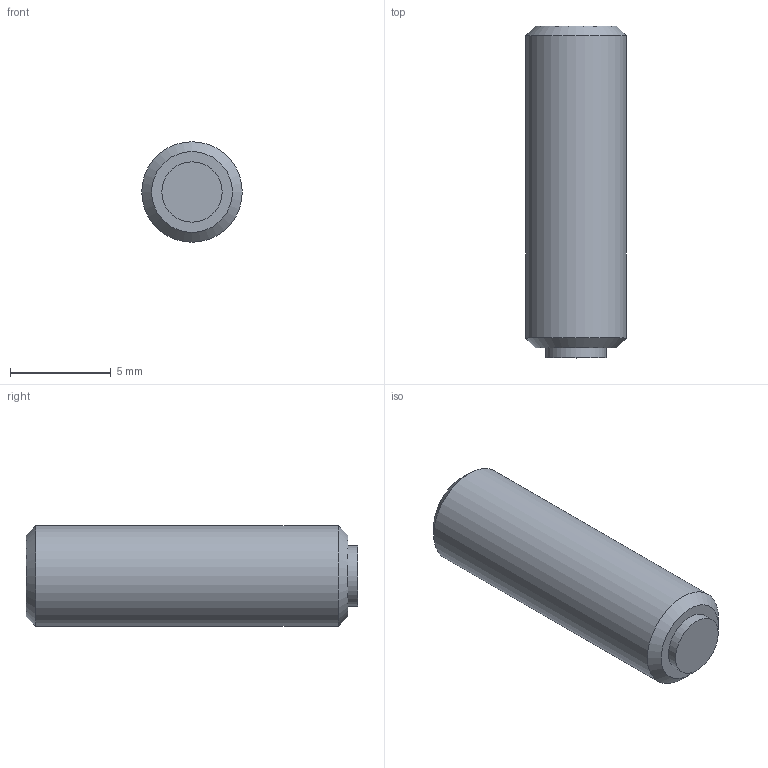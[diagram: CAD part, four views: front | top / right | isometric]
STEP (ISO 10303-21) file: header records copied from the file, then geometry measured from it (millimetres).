
FILE_DESCRIPTION( ( 'STEP AP203' ), '1' );
FILE_NAME( 'C:/Temp/Ganter_Step_05_03_2020/data/3_2/gn913_3/Grub screw GN 913.3-M5-16-MS.stp', '2020-03-13T05:35:47', ( 'License CC BY-ND 4.0' ), ( 'CADENAS' ), ' ', 'PARTsolutions', ' ' );
FILE_SCHEMA( ( 'CONFIG_CONTROL_DESIGN' ) );
Length unit declared in the file: millimetre
Products named in the file (1): _Grub screw GN 913.3-M5-16-MS
Bounding box: 5 x 16.5 x 5 mm (x, y, z)
Volume: 297.9 mm3; surface area: 311.6 mm2
Topology: 1 solids, 1 shells, 14 faces, 28 edges, 18 vertices
Faces by surface type: plane 10, cylinder 2, cone 2
Full cylindrical faces by diameter (mm): 3 x1, 5 x1
Entity records: 386 total; most frequent: DIRECTION 60, CARTESIAN_POINT 57, ORIENTED_EDGE 48, EDGE_CURVE 24, AXIS2_PLACEMENT_3D 21, EDGE_LOOP 20, VERTEX_POINT 18, LINE 18
